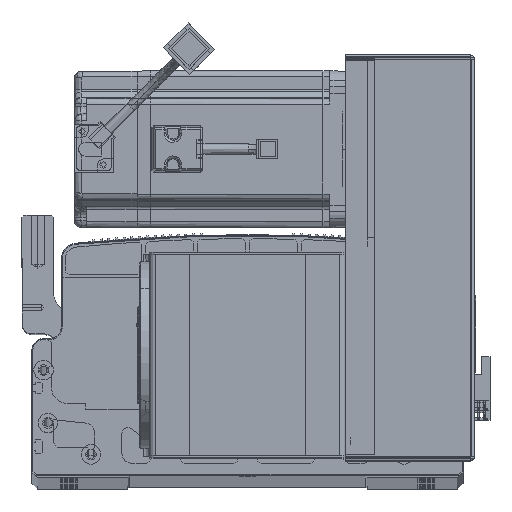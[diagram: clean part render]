
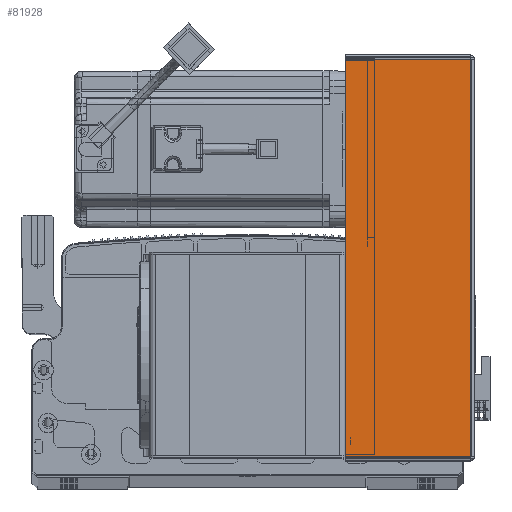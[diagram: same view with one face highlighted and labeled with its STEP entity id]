
A CAD part, top view. The second image highlights one B-rep face of the part: STEP entity #81928.
In plain terms, the highlighted planar face has unit normal (0, 0, 1) as drawn and (0, -1, 0) by its records, which use the part's own axes.
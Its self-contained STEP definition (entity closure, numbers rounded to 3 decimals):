
#2895 = DIRECTION ( 'NONE',  ( 1., 0., 0. ) ) ;
#3895 = CARTESIAN_POINT ( 'NONE',  ( 0., -1.5, -203.293 ) ) ;
#4737 = ORIENTED_EDGE ( 'NONE', *, *, #23757, .T. ) ;
#6630 = VERTEX_POINT ( 'NONE', #55972 ) ;
#9110 = DIRECTION ( 'NONE',  ( 0., 0., 1. ) ) ;
#11780 = CARTESIAN_POINT ( 'NONE',  ( 64.5, -1.5, -203.293 ) ) ;
#13317 = AXIS2_PLACEMENT_3D ( 'NONE', #55238, #70150, #77941 ) ;
#16159 = PLANE ( 'NONE',  #13317 ) ;
#23757 = EDGE_CURVE ( 'NONE', #50581, #6630, #70445, .T. ) ;
#24611 = VERTEX_POINT ( 'NONE', #80585 ) ;
#25688 = VECTOR ( 'NONE', #65965, 1000. ) ;
#33938 = ORIENTED_EDGE ( 'NONE', *, *, #40372, .T. ) ;
#40372 = EDGE_CURVE ( 'NONE', #99814, #50581, #59839, .T. ) ;
#43109 = LINE ( 'NONE', #83595, #97662 ) ;
#44941 = VECTOR ( 'NONE', #9110, 1000. ) ;
#46267 = FACE_OUTER_BOUND ( 'NONE', #49072, .T. ) ;
#47958 = CARTESIAN_POINT ( 'NONE',  ( 64.5, -1.5, 0. ) ) ;
#48893 = LINE ( 'NONE', #50452, #25688 ) ;
#49072 = EDGE_LOOP ( 'NONE', ( #64283, #33938, #4737, #98210 ) ) ;
#49570 = EDGE_CURVE ( 'NONE', #24611, #6630, #43109, .T. ) ;
#50452 = CARTESIAN_POINT ( 'NONE',  ( 0.737, -1.5, 0. ) ) ;
#50581 = VERTEX_POINT ( 'NONE', #11780 ) ;
#55004 = VECTOR ( 'NONE', #2895, 1000. ) ;
#55238 = CARTESIAN_POINT ( 'NONE',  ( 0., -1.5, 0. ) ) ;
#55972 = CARTESIAN_POINT ( 'NONE',  ( 64.5, -1.5, -0.707 ) ) ;
#59839 = LINE ( 'NONE', #3895, #55004 ) ;
#64283 = ORIENTED_EDGE ( 'NONE', *, *, #98552, .F. ) ;
#65965 = DIRECTION ( 'NONE',  ( 0., 0., 1. ) ) ;
#70150 = DIRECTION ( 'NONE',  ( 0., 1., 0. ) ) ;
#70445 = LINE ( 'NONE', #47958, #44941 ) ;
#76486 = DIRECTION ( 'NONE',  ( 1., 0., 0. ) ) ;
#77941 = DIRECTION ( 'NONE',  ( -1., 0., 0. ) ) ;
#80585 = CARTESIAN_POINT ( 'NONE',  ( 0.737, -1.5, -0.707 ) ) ;
#81928 = ADVANCED_FACE ( 'NONE', ( #46267 ), #16159, .F. ) ;
#83595 = CARTESIAN_POINT ( 'NONE',  ( 0., -1.5, -0.707 ) ) ;
#84655 = CARTESIAN_POINT ( 'NONE',  ( 0.737, -1.5, -203.293 ) ) ;
#97662 = VECTOR ( 'NONE', #76486, 1000. ) ;
#98210 = ORIENTED_EDGE ( 'NONE', *, *, #49570, .F. ) ;
#98552 = EDGE_CURVE ( 'NONE', #99814, #24611, #48893, .T. ) ;
#99814 = VERTEX_POINT ( 'NONE', #84655 ) ;
